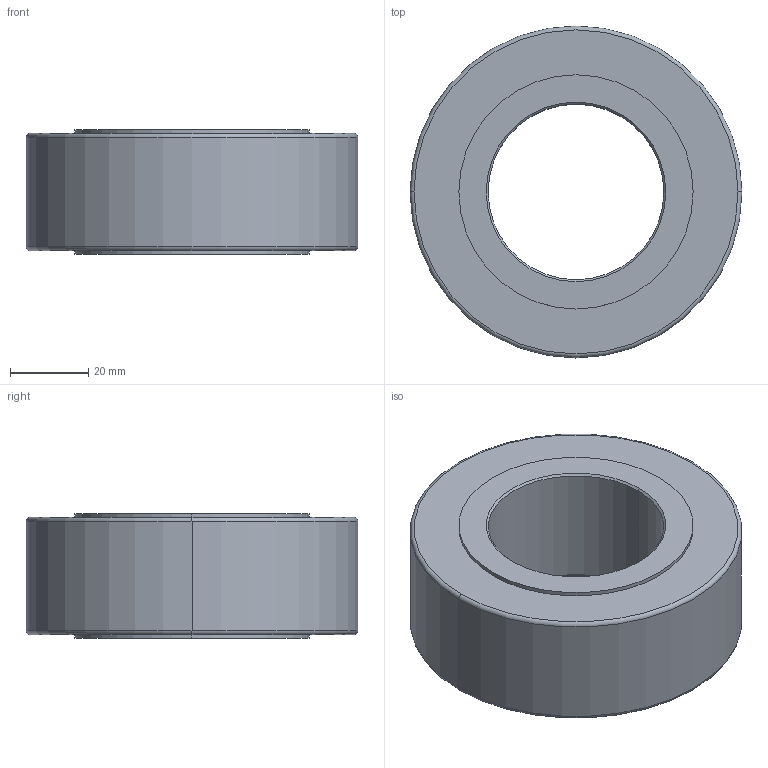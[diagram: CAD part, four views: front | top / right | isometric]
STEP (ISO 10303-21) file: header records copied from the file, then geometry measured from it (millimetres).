
FILE_DESCRIPTION (( 'STEP AP214' ), '1' );
FILE_NAME ('3DNUTR45-85.STEP', '2013-12-18T09:37:06', ( 'usuario' ), ( 'Hewlett-Packard Company' ), 'SwSTEP 2.0', 'SolidWorks 2017', '' );
FILE_SCHEMA (( 'AUTOMOTIVE_DESIGN' ));
Length unit declared in the file: millimetre
Products named in the file (1): 3DNUTR45-85
Bounding box: 85 x 85 x 32 mm (x, y, z)
Volume: 124846.5 mm3; surface area: 20767.8 mm2
Topology: 1 solids, 1 shells, 20 faces, 40 edges, 24 vertices
Faces by surface type: cylinder 8, cone 4, torus 4, plane 4
Entity records: 566 total; most frequent: DIRECTION 110, CARTESIAN_POINT 85, ORIENTED_EDGE 80, AXIS2_PLACEMENT_3D 49, EDGE_CURVE 40, CIRCLE 28, EDGE_LOOP 24, VERTEX_POINT 24
